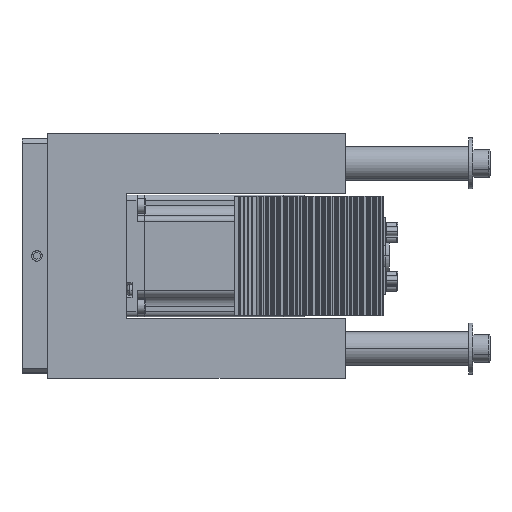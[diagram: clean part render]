
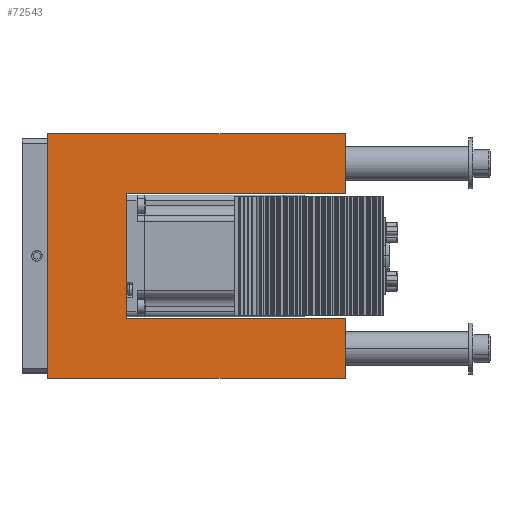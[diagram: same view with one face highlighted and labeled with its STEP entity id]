
A CAD part, top view. The second image highlights one B-rep face of the part: STEP entity #72543.
In plain terms, the highlighted planar face has unit normal (0, 0, 1).
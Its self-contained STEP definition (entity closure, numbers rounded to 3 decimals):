
#239 = EDGE_CURVE ( 'NONE', #59772, #27755, #74300, .T. ) ;
#1446 = CARTESIAN_POINT ( 'NONE',  ( 70., 29.25, 29. ) ) ;
#3452 = VECTOR ( 'NONE', #10153, 1000. ) ;
#5998 = EDGE_CURVE ( 'NONE', #57660, #23478, #55231, .T. ) ;
#7590 = CARTESIAN_POINT ( 'NONE',  ( 70., -29.25, 29. ) ) ;
#7882 = DIRECTION ( 'NONE',  ( 0., 0., 1. ) ) ;
#8013 = CARTESIAN_POINT ( 'NONE',  ( -33., 29.25, 29. ) ) ;
#8269 = CARTESIAN_POINT ( 'NONE',  ( -70., 57.5, 29. ) ) ;
#9300 = ORIENTED_EDGE ( 'NONE', *, *, #83900, .T. ) ;
#10153 = DIRECTION ( 'NONE',  ( -1., 0., 0. ) ) ;
#11140 = VECTOR ( 'NONE', #37322, 1000. ) ;
#13222 = CARTESIAN_POINT ( 'NONE',  ( -70., 57.5, 29. ) ) ;
#15581 = CARTESIAN_POINT ( 'NONE',  ( 70., 57.5, 29. ) ) ;
#15682 = EDGE_CURVE ( 'NONE', #27755, #34543, #28853, .T. ) ;
#16574 = LINE ( 'NONE', #81205, #82946 ) ;
#19116 = ORIENTED_EDGE ( 'NONE', *, *, #66534, .F. ) ;
#21873 = CARTESIAN_POINT ( 'NONE',  ( 70., 57.5, 29. ) ) ;
#23478 = VERTEX_POINT ( 'NONE', #74340 ) ;
#25998 = VECTOR ( 'NONE', #64908, 1000. ) ;
#26066 = CARTESIAN_POINT ( 'NONE',  ( 70., -57.5, 29. ) ) ;
#27755 = VERTEX_POINT ( 'NONE', #8013 ) ;
#28048 = DIRECTION ( 'NONE',  ( 0., 1., 0. ) ) ;
#28853 = LINE ( 'NONE', #54386, #32228 ) ;
#29006 = EDGE_LOOP ( 'NONE', ( #19116, #39614, #68902, #34064, #76704, #39840, #69419, #9300 ) ) ;
#32228 = VECTOR ( 'NONE', #34779, 1000. ) ;
#34014 = DIRECTION ( 'NONE',  ( 1., 0., 0. ) ) ;
#34064 = ORIENTED_EDGE ( 'NONE', *, *, #45119, .T. ) ;
#34543 = VERTEX_POINT ( 'NONE', #75517 ) ;
#34779 = DIRECTION ( 'NONE',  ( 0., -1., 0. ) ) ;
#37322 = DIRECTION ( 'NONE',  ( 0., 1., 0. ) ) ;
#37453 = VECTOR ( 'NONE', #28048, 1000. ) ;
#37755 = CARTESIAN_POINT ( 'NONE',  ( 70., 57.5, 29. ) ) ;
#39542 = EDGE_CURVE ( 'NONE', #23478, #52835, #80776, .T. ) ;
#39614 = ORIENTED_EDGE ( 'NONE', *, *, #15682, .F. ) ;
#39840 = ORIENTED_EDGE ( 'NONE', *, *, #5998, .T. ) ;
#40430 = LINE ( 'NONE', #15581, #37453 ) ;
#45119 = EDGE_CURVE ( 'NONE', #59772, #74452, #51359, .T. ) ;
#47948 = VECTOR ( 'NONE', #53708, 1000. ) ;
#48799 = CARTESIAN_POINT ( 'NONE',  ( -70., 57.5, 29. ) ) ;
#51359 = LINE ( 'NONE', #37755, #11140 ) ;
#52835 = VERTEX_POINT ( 'NONE', #26066 ) ;
#53708 = DIRECTION ( 'NONE',  ( 1., 0., 0. ) ) ;
#54386 = CARTESIAN_POINT ( 'NONE',  ( -33., -29.25, 29. ) ) ;
#55231 = LINE ( 'NONE', #8269, #83000 ) ;
#57464 = AXIS2_PLACEMENT_3D ( 'NONE', #80631, #7882, #34014 ) ;
#57660 = VERTEX_POINT ( 'NONE', #48799 ) ;
#59258 = LINE ( 'NONE', #13222, #25998 ) ;
#59772 = VERTEX_POINT ( 'NONE', #1446 ) ;
#60968 = CARTESIAN_POINT ( 'NONE',  ( -70., -57.5, 29. ) ) ;
#61250 = FACE_OUTER_BOUND ( 'NONE', #29006, .T. ) ;
#64908 = DIRECTION ( 'NONE',  ( -1., 0., 0. ) ) ;
#66439 = PLANE ( 'NONE',  #57464 ) ;
#66534 = EDGE_CURVE ( 'NONE', #34543, #75471, #16574, .T. ) ;
#68404 = EDGE_CURVE ( 'NONE', #74452, #57660, #59258, .T. ) ;
#68902 = ORIENTED_EDGE ( 'NONE', *, *, #239, .F. ) ;
#69419 = ORIENTED_EDGE ( 'NONE', *, *, #39542, .T. ) ;
#69538 = DIRECTION ( 'NONE',  ( 1., 0., 0. ) ) ;
#72543 = ADVANCED_FACE ( 'NONE', ( #61250 ), #66439, .T. ) ;
#74147 = DIRECTION ( 'NONE',  ( 0., -1., 0. ) ) ;
#74300 = LINE ( 'NONE', #81182, #3452 ) ;
#74340 = CARTESIAN_POINT ( 'NONE',  ( -70., -57.5, 29. ) ) ;
#74452 = VERTEX_POINT ( 'NONE', #21873 ) ;
#75471 = VERTEX_POINT ( 'NONE', #7590 ) ;
#75517 = CARTESIAN_POINT ( 'NONE',  ( -33., -29.25, 29. ) ) ;
#76704 = ORIENTED_EDGE ( 'NONE', *, *, #68404, .T. ) ;
#80631 = CARTESIAN_POINT ( 'NONE',  ( 0., 0., 29. ) ) ;
#80776 = LINE ( 'NONE', #60968, #47948 ) ;
#81182 = CARTESIAN_POINT ( 'NONE',  ( 70., 29.25, 29. ) ) ;
#81205 = CARTESIAN_POINT ( 'NONE',  ( 70., -29.25, 29. ) ) ;
#82946 = VECTOR ( 'NONE', #69538, 1000. ) ;
#83000 = VECTOR ( 'NONE', #74147, 1000. ) ;
#83900 = EDGE_CURVE ( 'NONE', #52835, #75471, #40430, .T. ) ;
